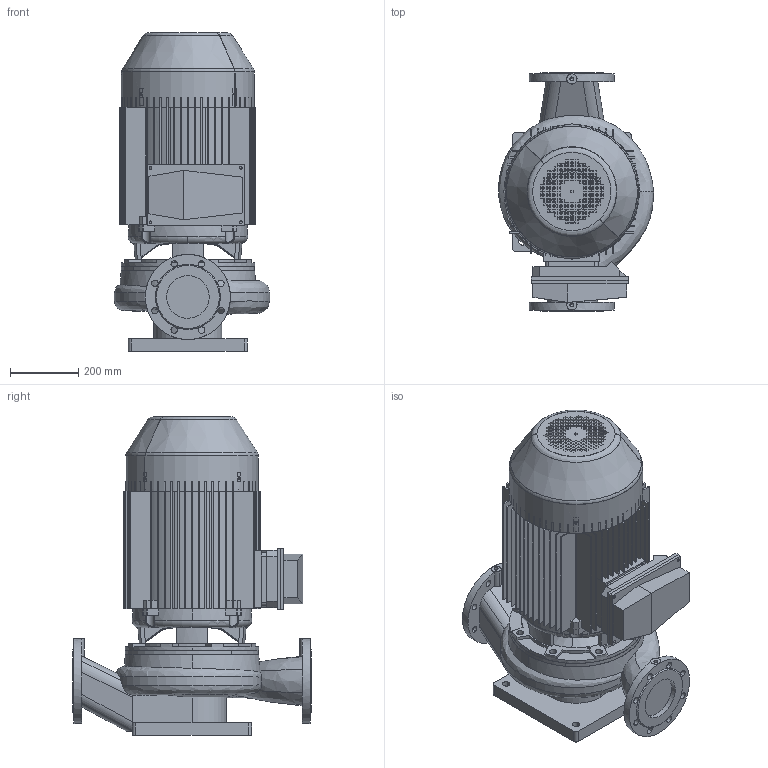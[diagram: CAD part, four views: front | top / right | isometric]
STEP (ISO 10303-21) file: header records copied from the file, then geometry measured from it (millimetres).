
FILE_DESCRIPTION(('STEP AP214'),'1');
FILE_NAME('export.stp','2018-05-28T11:49:25',(' '),(' '),'Spatial InterOp 3D',' ',' ');
FILE_SCHEMA(('AUTOMOTIVE_DESIGN { 1 0 10303 214 1 1 1 1 }'));
Length unit declared in the file: millimetre
Products named in the file (13): W_AL11282370KP205; V_TLL100SAL1202; V_PPALP1128; PP_ALP1128_kesken; Tukijalka_ALP1128; R200363; R200118; V_MKP205-J1-F31; R200144; R200138; R200137; R200147; R200368
Assembly tree (12 placements, depth 4):
  W_AL11282370KP205
    V_TLL100SAL1202
    V_PPALP1128
      PP_ALP1128_kesken
      Tukijalka_ALP1128
    V_MKP205-J1-F31
      R200363
        R200118
      R200144
      R200138
      R200137
      R200147
      R200368
Bounding box: 455.89 x 700 x 937 mm (x, y, z)
Volume: 48331698.3 mm3; surface area: 5420328.2 mm2
Topology: 9 solids, 9 shells, 1826 faces, 5340 edges, 3533 vertices
Faces by surface type: plane 1289, cylinder 414, cone 52, torus 38, bspline 33
Entity records: 96645 total; most frequent: CARTESIAN_POINT 16665, ORIENTED_EDGE 10672, DIRECTION 9680, EDGE_CURVE 5336, STYLED_ITEM 4884, PRESENTATION_STYLE_ASSIGNMENT 4884, COLOUR_RGB 4884, LINE 4072
